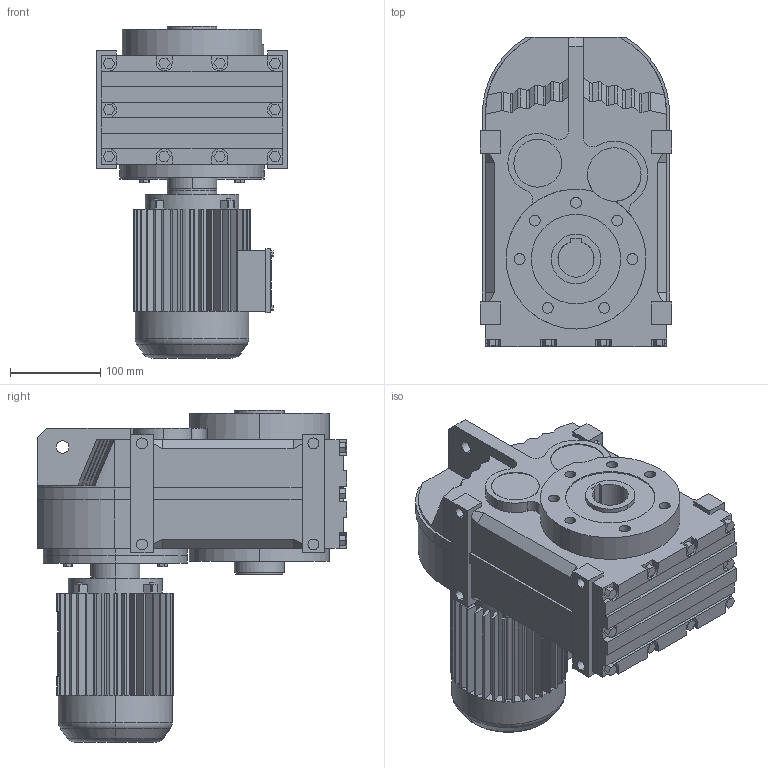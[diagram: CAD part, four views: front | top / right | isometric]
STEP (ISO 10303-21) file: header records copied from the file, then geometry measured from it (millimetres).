
FILE_DESCRIPTION(('Open CASCADE Model'),'2;1');
FILE_NAME('Open CASCADE Shape Model','2018-09-11T15:30:12',('Author'),( 'Open CASCADE'),'Open CASCADE STEP processor 6.3','Open CASCADE 6.3' ,'Unknown');
FILE_SCHEMA(('AUTOMOTIVE_DESIGN_CC2 { 1 2 10303 214 -1 1 5 4 }'));
Length unit declared in the file: millimetre
Products named in the file (4): 7_FA67-Y63S; FA27‵157_67.step; 萇儂_160.step; す瑩諾陑粣F_67.step
Assembly tree (3 placements, depth 2):
  7_FA67-Y63S
    FA27‵157_67.step
    萇儂_160.step
    す瑩諾陑粣F_67.step
Bounding box: 212 x 343 x 368 mm (x, y, z)
Volume: 10703373.8 mm3; surface area: 635557.9 mm2
Topology: 3 solids, 3 shells, 777 faces, 2051 edges, 1334 vertices
Faces by surface type: plane 565, cylinder 190, bspline 16, torus 4, cone 2
Entity records: 51791 total; most frequent: CARTESIAN_POINT 12305, DIRECTION 6935, ORIENTED_EDGE 4102, PCURVE 4102, DEFINITIONAL_REPRESENTATION 4102, LINE 3937, VECTOR 3937, EDGE_CURVE 2051
